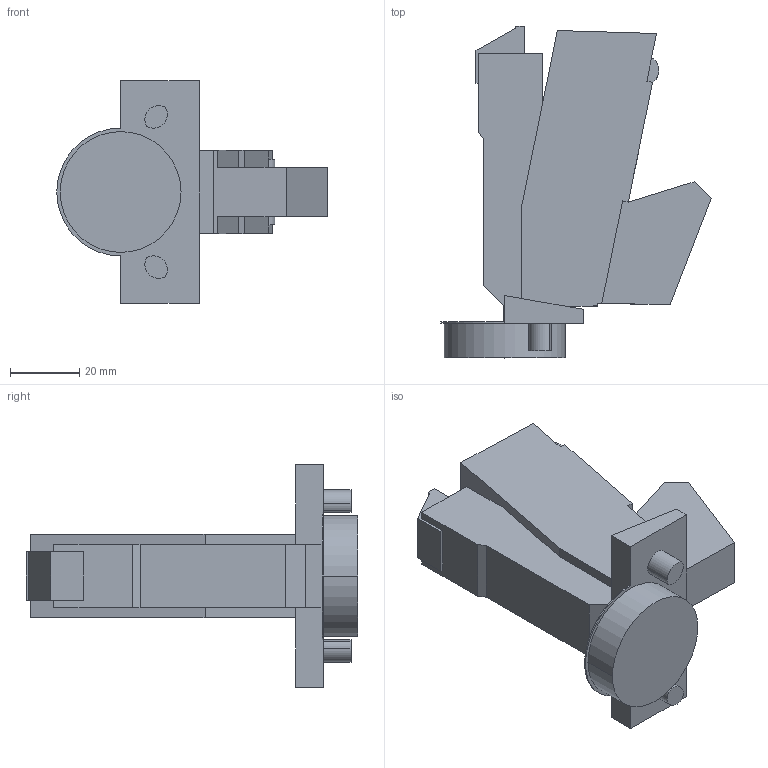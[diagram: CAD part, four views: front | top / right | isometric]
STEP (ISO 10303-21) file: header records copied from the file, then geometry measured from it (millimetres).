
FILE_DESCRIPTION (( 'STEP AP214' ), '1' );
FILE_NAME ('Scharnier TS Impresso 160° GB_BB, K95 - Neu -.step', '2019-09-17T09:15:37', ( '' ), ( '' ), 'SwSTEP 2.0', 'SolidWorks 2019', '' );
FILE_SCHEMA (( 'AUTOMOTIVE_DESIGN' ));
Length unit declared in the file: millimetre
Products named in the file (1): Scharnier TS Impresso 160° GB_BB, K95 - Neu -
Bounding box: 78.32 x 96.09 x 64.5 mm (x, y, z)
Volume: 103538.8 mm3; surface area: 20882.5 mm2
Topology: 1 solids, 2 shells, 67 faces, 176 edges, 116 vertices
Faces by surface type: plane 55, cylinder 12
Entity records: 2073 total; most frequent: CARTESIAN_POINT 363, ORIENTED_EDGE 352, DIRECTION 334, EDGE_CURVE 176, LINE 152, VECTOR 152, VERTEX_POINT 116, AXIS2_PLACEMENT_3D 91
